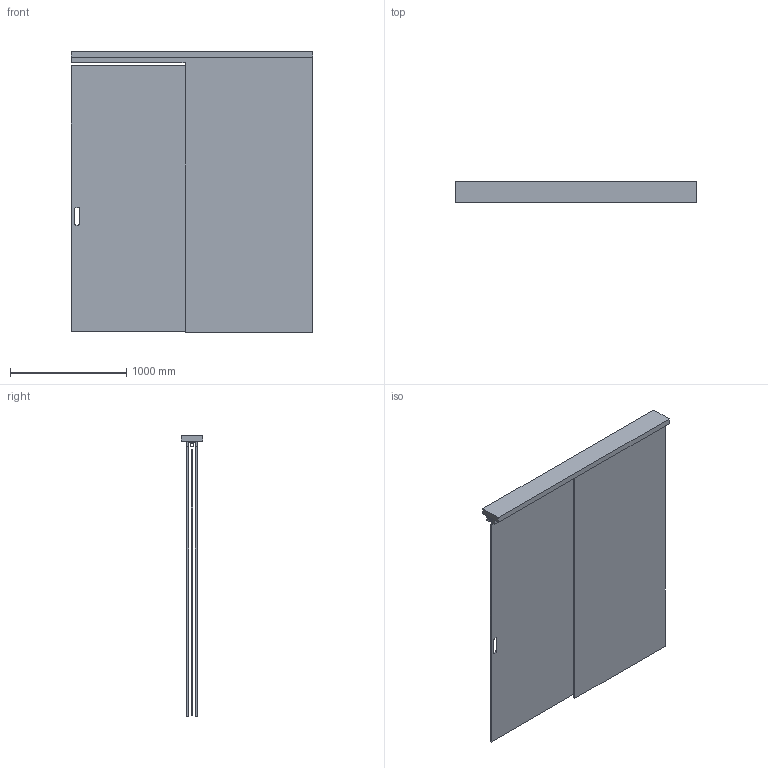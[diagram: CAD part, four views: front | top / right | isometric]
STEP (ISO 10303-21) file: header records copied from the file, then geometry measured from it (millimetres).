
FILE_DESCRIPTION(('STEP AP242'),'1');
FILE_NAME('OPO_56.047.03_volu_schn_3d.stp','2026-01-14T05:20:57',(' '),(' '),'Spatial InterOp 3D',' ',' ');
FILE_SCHEMA(('AP242_MANAGED_MODEL_BASED_3D_ENGINEERING_MIM_LF {1 0 10303 442 1 1 4}'));
Length unit declared in the file: millimetre
Products named in the file (1): 1
Bounding box: 2080 x 188 x 2418 mm (x, y, z)
Volume: 144620656.8 mm3; surface area: 17590456.4 mm2
Topology: 6 solids, 6 shells, 252 faces, 3761 edges, 6546 vertices
Faces by surface type: plane 208, cylinder 44
Entity records: 47637 total; most frequent: CARTESIAN_POINT 4824, DIRECTION 4767, STYLED_ITEM 3341, PRESENTATION_STYLE_ASSIGNMENT 3341, COLOUR_RGB 3341, LINE 3235, VECTOR 3235, COMPOSITE_CURVE 3089
